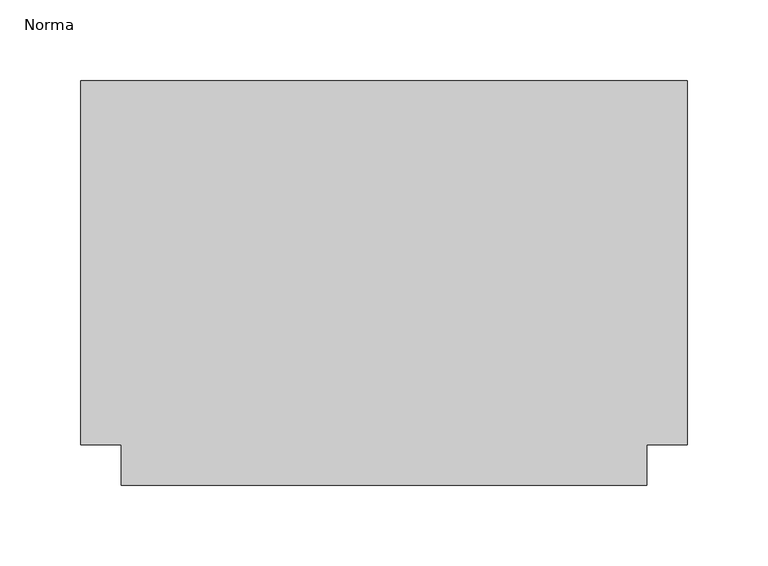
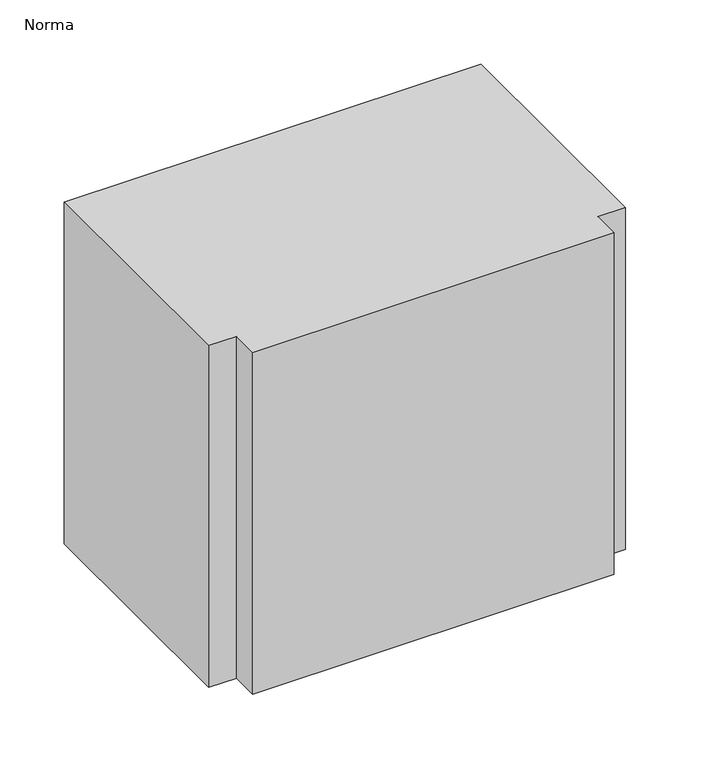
"""IFC4 building model written with IfcOpenShell, lengths in millimetres: duct fitting geometry, M_Te rectangular : Norma."""

from ifc_helpers import new_model, si_unit, frame, origin, place, context, project, spatial, polyline, outline, extrude, source, transform, mapped, element, save


def norma_9371bbf1(model_context):
    return source(origin(), model_context, "Body", "SweptSolid", [
        extrude(outline(polyline([(-187.5, -112.5), (-187.5, 112.5), (187.5, 112.5), (187.5, -112.5), (162.5, -112.5), (162.5, -137.5), (-162.5, -137.5), (-162.5, -112.5), (-187.5, -112.5)])), frame((0.0, 0.0, -162.5), z_axis=(0.0, 0.0, 1.0), x_axis=(1.0, 0.0, 0.0)), (0.0, 0.0, 1.0), 325.0),
    ])


if __name__ == "__main__":
    model = new_model("IFC4")
    model_context = context("Model", 3, world=origin())
    ifc_project = project(units=[si_unit("LENGTHUNIT", "METRE", prefix="MILLI")], contexts=[model_context])
    site = spatial("IfcSite", under=ifc_project)
    building = spatial("IfcBuilding", under=site)
    placement = place(None, origin())
    norma_shape = norma_9371bbf1(model_context)
    element("IfcDuctFitting", 1, ObjectType="M_Te rectangular : Norma", at=placement, inside=building, context=model_context, shape_type="MappedRepresentation", body=[
        mapped(norma_shape, transform((0.0, 0.0, 0.0), x_axis=(1.0, 0.0, 0.0), y_axis=(0.0, 1.0, 0.0), z_axis=(0.0, 0.0, 1.0))),
    ])
    save(model, "model.ifc")
